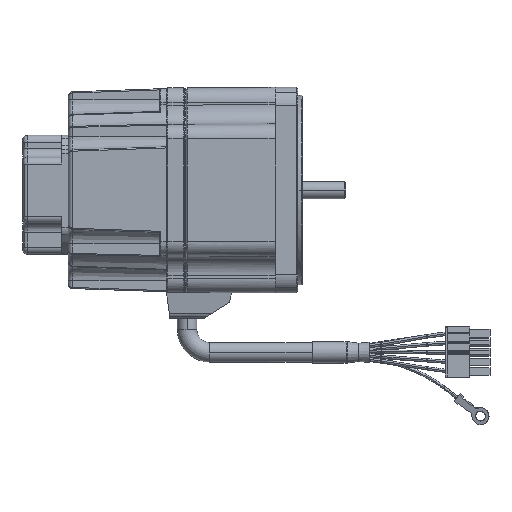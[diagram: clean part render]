
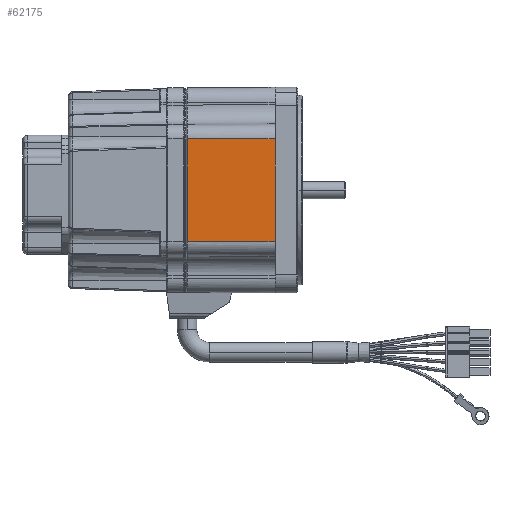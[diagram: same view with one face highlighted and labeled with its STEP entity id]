
A CAD part, left-side view. The second image highlights one B-rep face of the part: STEP entity #62175.
In plain terms, the highlighted planar face has unit normal (-1, 0.006, 0).
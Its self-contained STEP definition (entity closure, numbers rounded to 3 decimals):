
#443 = VERTEX_POINT ( 'NONE', #48684 ) ;
#1979 = CARTESIAN_POINT ( 'NONE',  ( -44.753, 48.5, -22.5 ) ) ;
#5796 = ORIENTED_EDGE ( 'NONE', *, *, #58816, .F. ) ;
#6091 = EDGE_LOOP ( 'NONE', ( #5796, #43119, #18543, #16487 ) ) ;
#7256 = CARTESIAN_POINT ( 'NONE',  ( -45., 10., -7.5 ) ) ;
#8109 = CARTESIAN_POINT ( 'NONE',  ( -44.794, 42.083, -22.5 ) ) ;
#8662 = EDGE_CURVE ( 'NONE', #443, #42258, #50169, .T. ) ;
#11328 = CARTESIAN_POINT ( 'NONE',  ( -45., 10., -22.5 ) ) ;
#12557 = EDGE_CURVE ( 'NONE', #15987, #42258, #37515, .T. ) ;
#13201 = CARTESIAN_POINT ( 'NONE',  ( -44.877, 29.25, -22.5 ) ) ;
#15987 = VERTEX_POINT ( 'NONE', #1979 ) ;
#16200 = CARTESIAN_POINT ( 'NONE',  ( -44.753, 48.5, 22.5 ) ) ;
#16487 = ORIENTED_EDGE ( 'NONE', *, *, #38716, .F. ) ;
#18543 = ORIENTED_EDGE ( 'NONE', *, *, #12557, .F. ) ;
#18961 = CARTESIAN_POINT ( 'NONE',  ( -44.835, 35.667, 22.5 ) ) ;
#20392 = AXIS2_PLACEMENT_3D ( 'NONE', #61136, #24237, #39801 ) ;
#23041 = CARTESIAN_POINT ( 'NONE',  ( -44.918, 22.833, 22.5 ) ) ;
#24237 = DIRECTION ( 'NONE',  ( -1., 0.006, 0. ) ) ;
#26718 = CARTESIAN_POINT ( 'NONE',  ( -44.753, 48.5, -7.5 ) ) ;
#26996 = B_SPLINE_CURVE_WITH_KNOTS ( 'NONE', 3,
 ( #53327, #52992, #7256, #11328 ),
 .UNSPECIFIED., .F., .F.,
 ( 4, 4 ),
 ( 0., 1. ),
 .UNSPECIFIED. ) ;
#30889 = CARTESIAN_POINT ( 'NONE',  ( -45., 10., -22.5 ) ) ;
#37515 = B_SPLINE_CURVE_WITH_KNOTS ( 'NONE', 3,
 ( #62615, #26718, #52756, #16200 ),
 .UNSPECIFIED., .F., .F.,
 ( 4, 4 ),
 ( 0., 1. ),
 .UNSPECIFIED. ) ;
#38716 = EDGE_CURVE ( 'NONE', #49033, #15987, #62973, .T. ) ;
#39616 = CARTESIAN_POINT ( 'NONE',  ( -44.753, 48.5, 22.5 ) ) ;
#39801 = DIRECTION ( 'NONE',  ( 0., 0., 1. ) ) ;
#42258 = VERTEX_POINT ( 'NONE', #62785 ) ;
#43119 = ORIENTED_EDGE ( 'NONE', *, *, #8662, .T. ) ;
#44027 = CARTESIAN_POINT ( 'NONE',  ( -45., 10., -22.5 ) ) ;
#48684 = CARTESIAN_POINT ( 'NONE',  ( -45., 10., 22.5 ) ) ;
#49033 = VERTEX_POINT ( 'NONE', #30889 ) ;
#50169 = B_SPLINE_CURVE_WITH_KNOTS ( 'NONE', 3,
 ( #64711, #23041, #18961, #39616 ),
 .UNSPECIFIED., .F., .F.,
 ( 4, 4 ),
 ( 0., 1. ),
 .UNSPECIFIED. ) ;
#52756 = CARTESIAN_POINT ( 'NONE',  ( -44.753, 48.5, 7.5 ) ) ;
#52992 = CARTESIAN_POINT ( 'NONE',  ( -45., 10., 7.5 ) ) ;
#53327 = CARTESIAN_POINT ( 'NONE',  ( -45., 10., 22.5 ) ) ;
#54525 = CARTESIAN_POINT ( 'NONE',  ( -44.753, 48.5, -22.5 ) ) ;
#55719 = PLANE ( 'NONE',  #20392 ) ;
#58770 = FACE_OUTER_BOUND ( 'NONE', #6091, .T. ) ;
#58816 = EDGE_CURVE ( 'NONE', #443, #49033, #26996, .T. ) ;
#59600 = CARTESIAN_POINT ( 'NONE',  ( -44.959, 16.417, -22.5 ) ) ;
#61136 = CARTESIAN_POINT ( 'NONE',  ( -45., 10., -22.5 ) ) ;
#62175 = ADVANCED_FACE ( 'NONE', ( #58770 ), #55719, .T. ) ;
#62615 = CARTESIAN_POINT ( 'NONE',  ( -44.753, 48.5, -22.5 ) ) ;
#62785 = CARTESIAN_POINT ( 'NONE',  ( -44.753, 48.5, 22.5 ) ) ;
#62973 = B_SPLINE_CURVE_WITH_KNOTS ( 'NONE', 3,
 ( #44027, #59600, #13201, #8109, #54525 ),
 .UNSPECIFIED., .F., .F.,
 ( 4, 1, 4 ),
 ( 0., 0.5, 1. ),
 .UNSPECIFIED. ) ;
#64711 = CARTESIAN_POINT ( 'NONE',  ( -45., 10., 22.5 ) ) ;
